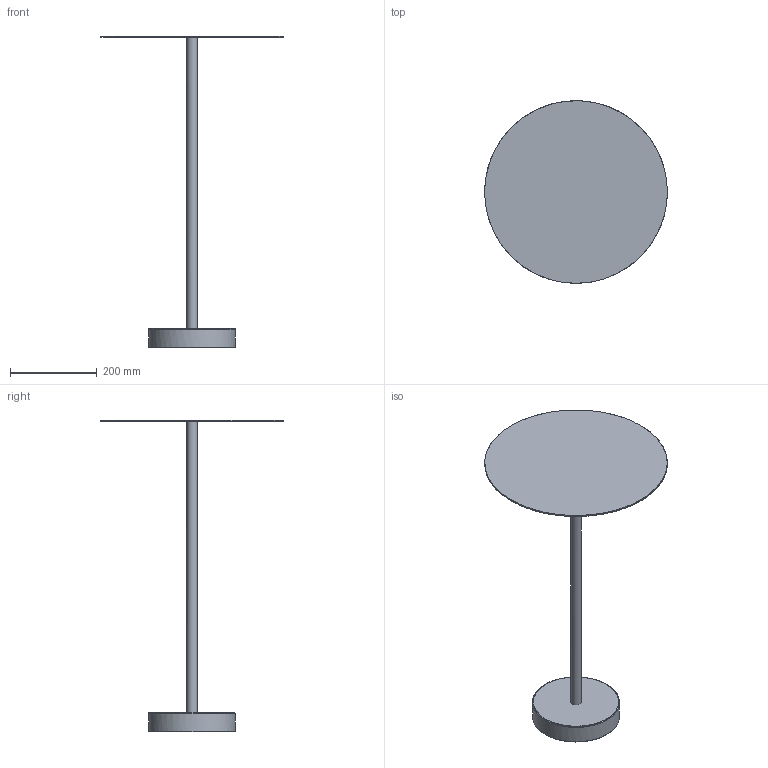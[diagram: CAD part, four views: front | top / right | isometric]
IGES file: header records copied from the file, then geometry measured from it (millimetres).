
Global section: file name: /Users/matteo_studiocdb02/Desktop/Danese 3/SPACE 3d (2)/Bincan table system/Bincan tavolino M/Bincan table M.igs; native system: Rhinoceros ( Dec 18 2012 ); preprocessor: Trout Lake IGES 012 Dec 18 2012; date: 130107.160740; units: millimetre
Bounding box: 420 x 419.96 x 717 mm (x, y, z)
Surface area: 508594.1 mm2 (no closed solid volume)
Topology: 0 solids, 0 shells, 18 faces, 828 edges, 816 vertices
Faces by surface type: bspline 18
